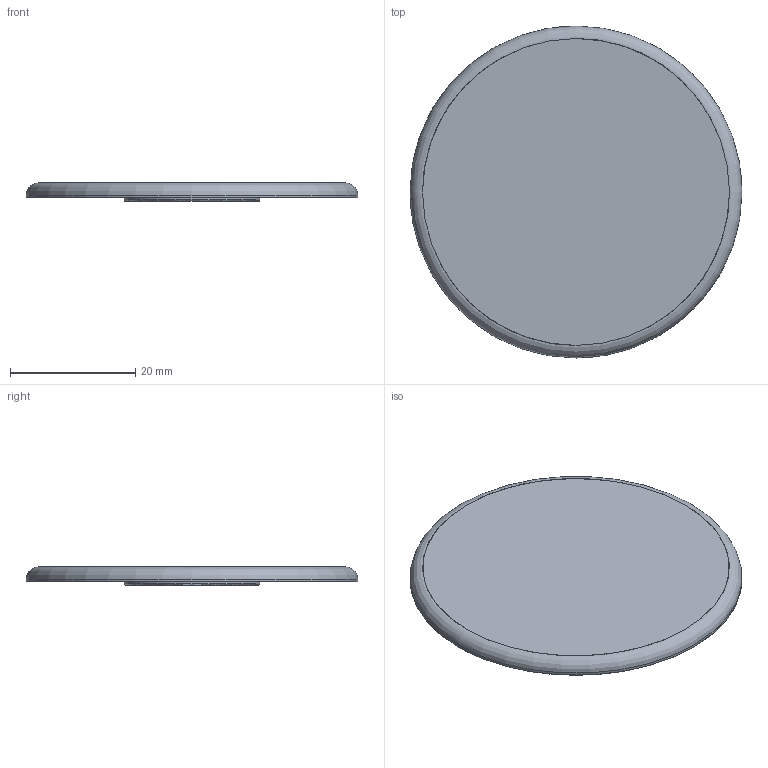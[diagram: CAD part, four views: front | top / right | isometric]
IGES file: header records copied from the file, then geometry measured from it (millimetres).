
Start section: --------------------------------------------------------------------- IGES file generated by CADlook_v12.0.  Visit http://www.cadlook.com for more information on CADlook translators and viewers. ---------------------------------------------------------------------
Global section: file name: D:\File_clienti\Brasile\Fischer\cap-int-tri-01-a1.igs; native system: Cimatron E 9.0; preprocessor: CADlook_v12.0; author: aquintaba; organization: None; date: 20100422.125340; units: millimetre
Bounding box: 53 x 53 x 2.9 mm (x, y, z)
Surface area: 4905.7 mm2 (no closed solid volume)
Topology: 0 solids, 0 shells, 13 faces, 86 edges, 86 vertices
Faces by surface type: revolution 8, bspline 5
